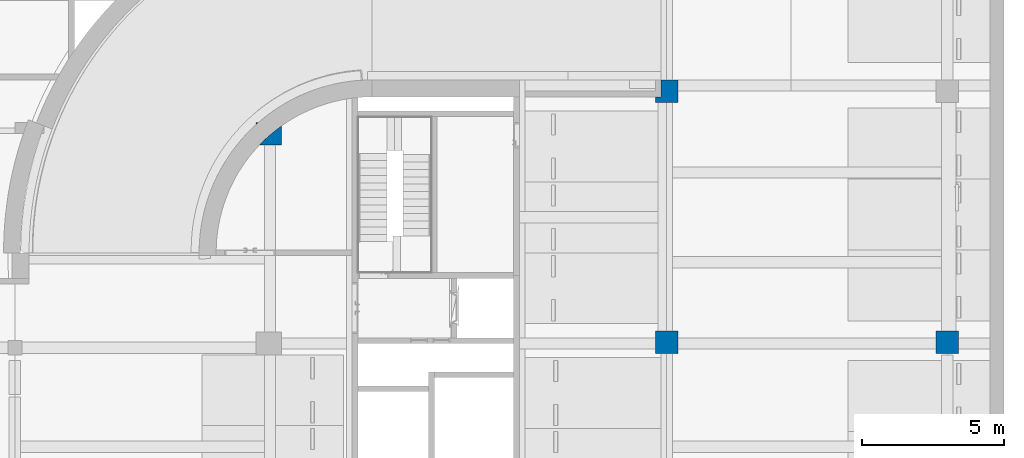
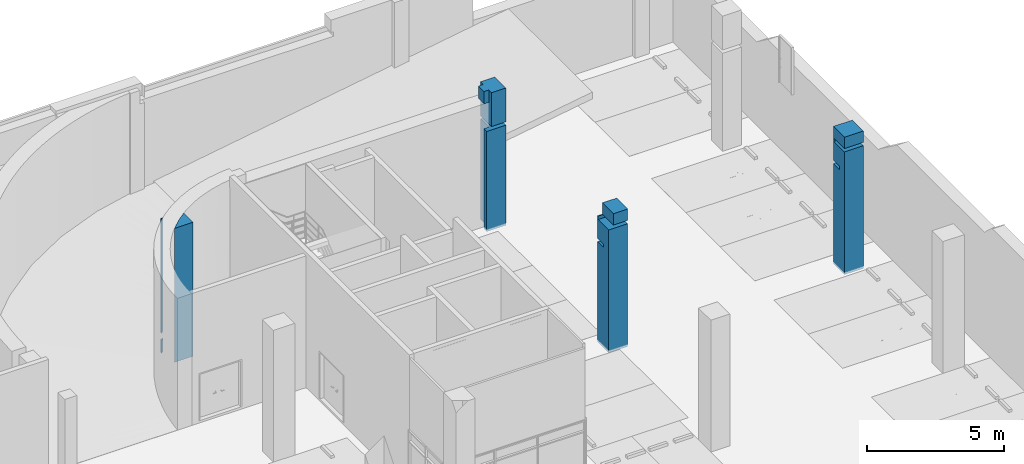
# One storey, part 17 of 29: 4 columns.
"""IFC2X3 building model written with IfcOpenShell, lengths in millimetres."""

from ifc_helpers import new_model, entity, si_unit, converted_unit, derived_unit, direction, frame, origin, place, context, subcontext, project, spatial, faceted_brep, source, transform, mapped, material, material_list, type_object, type_shapes, element, save


model = new_model("IFC2X3")

# Units and contexts
model_context = context("Model", 3, precision=0.01, world=origin(), true_north=direction((6.123031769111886e-17, 1.0)))
body_context = subcontext(model_context, "Body", "Model", "MODEL_VIEW")
ifc_project = project(units=[si_unit("LENGTHUNIT", "METRE", prefix="MILLI"), si_unit("AREAUNIT", "SQUARE_METRE"), si_unit("VOLUMEUNIT", "CUBIC_METRE"), converted_unit("PLANEANGLEUNIT", "DEGREE", entity("IfcRatioMeasure", 0.017453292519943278), si_unit("PLANEANGLEUNIT", "RADIAN"), dimensions=[0, 0, 0, 0, 0, 0, 0]), si_unit("MASSUNIT", "GRAM", prefix="KILO"), derived_unit("MASSDENSITYUNIT", [(si_unit("MASSUNIT", "GRAM", prefix="KILO"), 1), (si_unit("LENGTHUNIT", "METRE"), -3)]), derived_unit("MOMENTOFINERTIAUNIT", [(si_unit("LENGTHUNIT", "METRE"), 4)]), si_unit("TIMEUNIT", "SECOND"), si_unit("FREQUENCYUNIT", "HERTZ"), si_unit("THERMODYNAMICTEMPERATUREUNIT", "DEGREE_CELSIUS"), derived_unit("THERMALTRANSMITTANCEUNIT", [(si_unit("MASSUNIT", "GRAM", prefix="KILO"), 1), (si_unit("THERMODYNAMICTEMPERATUREUNIT", "KELVIN"), -1), (si_unit("TIMEUNIT", "SECOND"), -3)]), derived_unit("VOLUMETRICFLOWRATEUNIT", [(si_unit("LENGTHUNIT", "METRE"), 3), (si_unit("TIMEUNIT", "SECOND"), -1)]), derived_unit("MASSFLOWRATEUNIT", [(si_unit("MASSUNIT", "GRAM", prefix="KILO"), 1), (si_unit("TIMEUNIT", "SECOND"), -1)]), derived_unit("ROTATIONALFREQUENCYUNIT", [(si_unit("TIMEUNIT", "SECOND"), -1)]), si_unit("ELECTRICCURRENTUNIT", "AMPERE"), si_unit("ELECTRICVOLTAGEUNIT", "VOLT"), si_unit("POWERUNIT", "WATT"), si_unit("FORCEUNIT", "NEWTON", prefix="KILO"), si_unit("ILLUMINANCEUNIT", "LUX"), si_unit("LUMINOUSFLUXUNIT", "LUMEN"), si_unit("LUMINOUSINTENSITYUNIT", "CANDELA"), derived_unit("USERDEFINED", [(si_unit("MASSUNIT", "GRAM", prefix="KILO"), -1), (si_unit("LENGTHUNIT", "METRE"), -2), (si_unit("TIMEUNIT", "SECOND"), 3), (si_unit("LUMINOUSFLUXUNIT", "LUMEN"), 1)]), derived_unit("SOUNDPOWERUNIT", [(si_unit("MASSUNIT", "GRAM", prefix="KILO"), 1), (si_unit("LENGTHUNIT", "METRE"), 2), (si_unit("TIMEUNIT", "SECOND"), -3)]), derived_unit("SOUNDPRESSUREUNIT", [(si_unit("MASSUNIT", "GRAM", prefix="KILO"), 1), (si_unit("LENGTHUNIT", "METRE"), -1), (si_unit("TIMEUNIT", "SECOND"), -2)]), derived_unit("LINEARVELOCITYUNIT", [(si_unit("LENGTHUNIT", "METRE"), 1), (si_unit("TIMEUNIT", "SECOND"), -1)]), si_unit("PRESSUREUNIT", "PASCAL"), derived_unit("USERDEFINED", [(si_unit("LENGTHUNIT", "METRE"), -2), (si_unit("MASSUNIT", "GRAM", prefix="KILO"), 1), (si_unit("TIMEUNIT", "SECOND"), -2)]), derived_unit("LINEARFORCEUNIT", [(si_unit("MASSUNIT", "GRAM", prefix="KILO"), 1), (si_unit("LENGTHUNIT", "METRE"), 1), (si_unit("TIMEUNIT", "SECOND"), -2), (si_unit("LENGTHUNIT", "METRE"), -1)]), derived_unit("PLANARFORCEUNIT", [(si_unit("MASSUNIT", "GRAM", prefix="KILO"), 1), (si_unit("LENGTHUNIT", "METRE"), 1), (si_unit("TIMEUNIT", "SECOND"), -2), (si_unit("LENGTHUNIT", "METRE"), -2)])], contexts=[model_context])

# Site, building, storey
site_placement = place(None, frame((-14167.972527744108, -657.2125860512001, 0.0)))
site = spatial("IfcSite", under=ifc_project, at=site_placement, Name="Default", CompositionType="ELEMENT")
building_placement = place(site_placement, origin())
building = spatial("IfcBuilding", under=site, at=building_placement, Name="Sample Building", CompositionType="ELEMENT")
storey_placement = place(building_placement, frame((0.0, 0.0, -6100.0)))
storey = spatial("IfcBuildingStorey", under=building, at=storey_placement, Name="지하1층", CompositionType="ELEMENT", Elevation=-6099.999999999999)

# Columns
ifc_material = material(Name="KBIMS-콘크리트")
column_type_1 = type_object("IfcColumnType", Name="CL111-철근콘크리트구조 기둥 (각형)1:CL111-철근콘크리트구조 기둥 (각형)_800x800_B2-4C1", PredefinedType="COLUMN", material=ifc_material)
shared_shape_1 = source(origin(), body_context, "Body", "Brep", [
    faceted_brep([(800.0, 800.0, 0.0), (800.0, 0.0, 0.0), (0.0, 0.0, 0.0), (0.0, 800.0, 0.0), (800.0, 800.0, 4450.0), (800.0, 362.5000750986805, 4450.0), (800.0, 362.5000750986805, 4600.0), (800.0, 562.4999999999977, 4600.0), (800.0, 762.4999999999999, 4600.0), (800.0, 800.0, 4600.0), (800.0, 800.0, 6100.0), (800.0, 0.0, 6100.0), (800.0, 0.0, 5600.0), (800.0, 762.5000750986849, 5600.0), (800.0, 762.5000750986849, 5450.0), (800.0, 0.0, 5450.0), (199.99132676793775, 0.0, 6100.0), (199.99132676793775, 0.0, 5600.0), (0.0, 0.0, 5450.0), (0.0, 762.5000750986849, 5450.0), (0.0, 762.5000750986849, 5600.0), (0.0, 800.0, 5600.0), (0.0, 800.0, 4600.0), (0.0, 362.5000750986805, 4600.0), (0.0, 362.5000750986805, 4450.0), (0.0, 800.0, 4450.0), (199.99132676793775, 800.0, 5600.0), (199.99132676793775, 800.0, 6100.0), (199.99132676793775, 800.0, 4600.0), (75.28212069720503, 0.0, 5450.0), (475.2821206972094, 0.0, 5450.0), (199.99132676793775, 762.5000750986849, 5600.0)], [[[0, 1, 2, 3]], [[1, 0, 4, 5, 6, 7, 8, 9, 10, 11, 12, 13, 14, 15]], [[12, 11, 16, 17]], [[3, 2, 18, 19, 20, 21, 22, 23, 24, 25]], [[26, 27, 10, 9, 28, 22, 21]], [[11, 10, 27, 16]], [[15, 14, 19, 18, 29, 30]], [[13, 12, 17, 31]], [[2, 1, 15, 30, 29, 18]], [[14, 13, 31, 20, 19]], [[24, 5, 4, 25]], [[6, 23, 22, 28, 9, 8, 7]], [[5, 24, 23, 6]], [[16, 27, 26, 31, 17]], [[31, 26, 21, 20]], [[0, 3, 25, 4]]]),
])
type_shapes(column_type_1, [shared_shape_1])
column_1_placement = place(storey_placement, frame((40767.97247138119, 19594.712307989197, 0.0)))
element("IfcColumn", 1, at=column_1_placement, inside=storey, type_object=column_type_1, material=ifc_material, Name="CL111-철근콘크리트구조 기둥 (각형)1:CL111-철근콘크리트구조 기둥 (각형)_800x800_B2-4C1", ObjectType="CL111-철근콘크리트구조 기둥 (각형)1:CL111-철근콘크리트구조 기둥 (각형)_800x800_B2-4C1", context=body_context, shape_type="MappedRepresentation", body=[
    mapped(shared_shape_1, transform((0.0, 0.0, 0.0), scale=1.0)),
])
column_type_2 = type_object("IfcColumnType", Name="CL111-철근콘크리트구조 기둥 (각형)1:CL111-철근콘크리트구조 기둥 (각형)_800x800_B2-4C1", PredefinedType="COLUMN", material=ifc_material)
shared_shape_2 = source(origin(), body_context, "Body", "Brep", [
    faceted_brep([(800.0, 800.0, 0.0), (800.0, 0.0, 0.0), (0.0, 0.0, 0.0), (0.0, 800.0, 0.0), (800.0, 800.0, 4450.0), (800.0, 362.5174918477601, 4450.0), (800.0, 362.5174918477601, 4600.0), (800.0, 800.0, 4600.0), (800.0, 800.0, 6100.0), (800.0, 0.0, 6100.0), (800.0, 0.0, 5600.0), (800.0, 762.5174918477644, 5600.0), (800.0, 762.5174918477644, 5450.0), (800.0, 0.0, 5450.0), (0.0, 0.0, 6100.0), (0.0, 0.0, 5600.0), (0.0, 0.0, 5450.0), (0.0, 362.51780089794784, 5450.0), (0.0, 476.382299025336, 5450.0), (0.0, 762.5174918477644, 5450.0), (0.0, 762.5174918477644, 5600.0), (0.0, 800.0, 6100.0), (0.0, 800.0, 5600.0), (0.0, 800.0, 4750.0), (0.0, 800.0, 4600.0), (0.0, 362.5174918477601, 4600.0), (0.0, 362.5174918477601, 4450.0), (0.0, 800.0, 4450.0), (199.99909964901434, 0.0, 5450.0), (275.29854995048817, 0.0, 5450.0), (675.2985499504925, 0.0, 5450.0), (799.9999326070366, 762.5174918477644, 5450.0), (799.9999326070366, 762.5174918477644, 5600.0), (799.9911598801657, 362.5174918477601, 4600.0), (799.9911598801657, 362.5174918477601, 4450.0)], [[[0, 1, 2, 3]], [[1, 0, 4, 5, 6, 7, 8, 9, 10, 11, 12, 13]], [[9, 14, 15, 10]], [[3, 2, 16, 17, 18, 19, 20, 15, 14, 21, 22, 23, 24, 25, 26, 27]], [[21, 8, 7, 24, 23, 22]], [[9, 8, 21, 14]], [[16, 28, 29, 30, 13, 31, 19, 18, 17]], [[10, 15, 20, 11]], [[19, 12, 32, 20]], [[2, 1, 13, 30, 29, 28, 16]], [[26, 5, 4, 27]], [[33, 25, 24, 7]], [[34, 26, 25, 6]], [[0, 3, 27, 4]]]),
])
type_shapes(column_type_2, [shared_shape_2])
column_2_placement = place(storey_placement, frame((50667.963865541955, 19594.694891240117, 0.0)))
element("IfcColumn", 2, at=column_2_placement, inside=storey, type_object=column_type_2, material=ifc_material, Name="CL111-철근콘크리트구조 기둥 (각형)1:CL111-철근콘크리트구조 기둥 (각형)_800x800_B2-4C1", ObjectType="CL111-철근콘크리트구조 기둥 (각형)1:CL111-철근콘크리트구조 기둥 (각형)_800x800_B2-4C1", context=body_context, shape_type="MappedRepresentation", body=[
    mapped(shared_shape_2, transform((0.0, 0.0, 0.0), scale=1.0)),
])
ifc_material_list_1 = material_list([ifc_material, ifc_material, ifc_material])
ifc_material_list_2 = material_list([ifc_material, ifc_material, ifc_material])
column_type_3 = type_object("IfcColumnType", Name="CL111-철근콘크리트구조 기둥 (각형)1:CL111-철근콘크리트구조 기둥 (각형)_800x900_B2-1C2", PredefinedType="COLUMN", material=ifc_material_list_2)
shared_shape_3 = source(origin(), body_context, "Body", "Brep", [
    faceted_brep([(901.5875000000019, 1.5874999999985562, 0.0), (125.42607430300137, 1.5874999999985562, 0.0), (307.43946888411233, 183.33417758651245, 0.0), (497.75120242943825, 356.3722505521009, 0.0), (695.9450381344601, 520.3232618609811, 0.0), (901.5875000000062, 674.8286290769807, 0.0), (901.5875000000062, 674.8286290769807, 5950.0), (901.5875000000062, 515.4519981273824, 5950.0), (901.5875000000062, 401.58749999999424, 5950.0), (901.5875000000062, 1.5874999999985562, 5950.0), (901.5875000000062, 674.8286290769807, 5250.0), (576.8782573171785, 1.5874999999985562, 5950.0), (125.42607430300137, 1.5874999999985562, 5950.0), (125.42607430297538, 1.5874999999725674, 3360.482668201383), (307.43946888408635, 183.33417758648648, 5950.0), (497.7512024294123, 356.37225055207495, 5950.0), (595.8895566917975, 439.50652556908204, 2975.0), (695.9450381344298, 520.3232618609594, 5950.0)], [[[0, 1, 2, 3, 4, 5]], [[6, 7, 8, 9, 0, 5, 10]], [[11, 12, 13, 1, 0, 9]], [[14, 15, 16]], [[14, 16, 13]], [[3, 2, 16]], [[13, 16, 2]], [[13, 2, 1]], [[13, 12, 14]], [[17, 6, 10]], [[10, 16, 17]], [[5, 16, 10]], [[16, 4, 3]], [[16, 5, 4]], [[16, 15, 17]], [[11, 9, 8, 7, 6, 17, 15, 14, 12]]]),
    faceted_brep([(1.5875000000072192, 801.5874999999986, 5950.0), (95.3600794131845, 801.5874999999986, 5950.0), (95.3600794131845, 801.5874999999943, 5268.222909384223), (95.3600794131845, 801.5874999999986, 4586.445818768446), (95.3600794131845, 801.5874999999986, 3904.6687281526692), (95.3600794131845, 801.5874999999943, 3222.891637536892), (95.3600794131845, 801.5874999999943, 2744.712541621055), (95.3600794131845, 801.5874999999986, 2266.5334457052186), (95.3600794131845, 801.5874999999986, 1584.756355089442), (95.36007941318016, 801.5874999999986, 902.9792644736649), (48.49685158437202, 801.5874999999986, 897.6222033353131), (1.5875000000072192, 801.5874999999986, 892.3131133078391), (1.5875000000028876, 718.2073581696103, 5950.0), (1.5875000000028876, 759.8769209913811, 888.1620354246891), (1.5875000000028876, 718.2073581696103, 883.9731568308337), (1.5875000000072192, 718.2073581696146, 1565.7502474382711), (1.5875000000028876, 718.2073581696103, 2150.479867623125), (1.5875000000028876, 718.2073581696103, 2783.7332230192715), (1.5875000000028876, 718.2073581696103, 3416.9865784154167), (1.5875000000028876, 718.2073581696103, 4001.7161986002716), (1.5875000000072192, 718.2073581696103, 4586.445818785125), (1.5875000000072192, 718.2073581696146, 5268.2229093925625), (48.25938558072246, 760.1385563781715, 5950.0), (48.25931903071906, 760.1384972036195, 893.4762004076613), (49.2673479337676, 761.0346108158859, 2983.802089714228), (46.70052292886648, 758.7519787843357, 2322.7155159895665), (47.62703749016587, 759.576210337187, 1858.1150573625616), (48.259385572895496, 760.1385563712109, 5462.949091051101), (48.25938557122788, 760.1385563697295, 4781.105223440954), (48.25938558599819, 760.1385563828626, 4294.081008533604), (49.46031034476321, 761.2061042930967, 1375.8857781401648), (51.52870579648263, 763.0434530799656, 3463.088432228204), (51.53025586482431, 763.0448293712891, 3879.1679283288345)], [[[0, 1, 2, 3, 4, 5, 6, 7, 8, 9, 10, 11]], [[12, 0, 11, 13, 14, 15, 16, 17, 18, 19, 20, 21]], [[22, 1, 0, 12]], [[23, 10, 9]], [[13, 10, 23]], [[23, 14, 13]], [[10, 13, 11]], [[6, 24, 25]], [[26, 7, 25]], [[27, 28, 29, 4, 3, 2, 1, 22]], [[30, 15, 14]], [[15, 30, 26]], [[28, 27, 22, 12, 21, 20, 19, 29]], [[18, 24, 31]], [[30, 23, 9]], [[17, 25, 24]], [[26, 16, 15]], [[25, 16, 26]], [[26, 8, 7]], [[8, 26, 30]], [[8, 30, 9]], [[14, 23, 30]], [[25, 17, 16]], [[29, 19, 32]], [[5, 24, 6]], [[25, 7, 6]], [[17, 24, 18]], [[31, 24, 5]], [[31, 5, 4]], [[32, 19, 18]], [[4, 29, 32]], [[32, 31, 4]], [[18, 31, 32]]]),
    faceted_brep([(95.36007941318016, 801.5874999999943, 602.9792644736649), (48.49685158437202, 801.5875000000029, 597.6222033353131), (48.259319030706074, 760.1384972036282, 593.4762004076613), (1.5875000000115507, 759.8769209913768, 588.162035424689), (1.5875000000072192, 718.2073581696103, 583.9731568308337), (1.5875000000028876, 801.5875000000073, 592.3131133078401), (95.3600794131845, 801.5874999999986, 0.0), (48.25938558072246, 760.1385563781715, 0.0), (1.5875000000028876, 718.2073581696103, 0.0), (1.5875000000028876, 801.5874999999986, 0.0)], [[[0, 1, 2]], [[2, 1, 3]], [[3, 4, 2]], [[5, 3, 1]], [[6, 0, 2]], [[7, 6, 2]], [[2, 4, 7]], [[8, 7, 4]], [[7, 8, 9, 6]], [[1, 0, 6, 9, 5]], [[3, 5, 9, 8, 4]]]),
])
type_shapes(column_type_3, [shared_shape_3])
column_3_placement = place(storey_placement, frame((26666.367641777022, 26955.6251170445, 0.0)))
element("IfcColumn", 3, at=column_3_placement, inside=storey, type_object=column_type_3, material=ifc_material_list_1, Name="CL111-철근콘크리트구조 기둥 (각형)1:CL111-철근콘크리트구조 기둥 (각형)_800x900_B2-1C2", ObjectType="CL111-철근콘크리트구조 기둥 (각형)1:CL111-철근콘크리트구조 기둥 (각형)_800x900_B2-1C2", context=body_context, shape_type="MappedRepresentation", body=[
    mapped(shared_shape_3, transform((0.0, 0.0, 0.0), scale=1.0)),
])
ifc_material_list_3 = material_list([ifc_material, ifc_material])
ifc_material_list_4 = material_list([ifc_material, ifc_material])
column_type_4 = type_object("IfcColumnType", Name="CL111-철근콘크리트구조 기둥 (각형)1:CL111-철근콘크리트구조 기둥 (각형)_800x800_B2-4C1", PredefinedType="COLUMN", material=ifc_material_list_4)
shared_shape_4 = source(origin(), body_context, "Body", "Brep", [
    faceted_brep([(800.0, 800.0, 0.0), (800.0, 0.0, 0.0), (0.0, 0.0, 0.0), (0.0, 199.99969094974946, 0.0), (200.00865637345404, 199.99969094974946, 0.0), (200.00865637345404, 800.0, 0.0), (800.0, 0.0, 4450.0), (800.0, 400.0, 4450.0), (800.0, 800.0, 4450.0), (200.00865637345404, 800.0, 4450.0), (200.00865637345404, 199.99969094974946, 4450.0), (0.0, 199.99969094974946, 4450.0), (0.0, 0.0, 4450.0), (800.0, 800.0, 2681.688367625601), (800.0, 800.0, 3289.59679525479), (800.0, 800.0, 3750.0)], [[[0, 1, 2, 3, 4, 5]], [[6, 7, 8, 9, 10, 11, 12]], [[1, 0, 13, 14, 15, 8, 7, 6]], [[2, 1, 6, 12]], [[2, 12, 11, 3]], [[8, 15, 14, 13, 0, 5, 9]], [[4, 10, 9, 5]], [[10, 4, 3, 11]]]),
    faceted_brep([(800.0, 0.0, 6100.0), (800.0, 0.0, 4600.0), (800.0, 599.9996781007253, 4600.0), (800.0, 599.999678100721, 6100.0), (200.00865637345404, 0.0, 6100.0), (200.00865637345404, 0.0, 4600.0), (0.0, 199.99969094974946, 5550.0), (0.0, 199.99969094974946, 6100.0), (0.0, 599.9996909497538, 6100.0), (0.0, 599.9996909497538, 5550.0), (200.00865637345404, 800.0, 4600.0), (200.0086563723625, 800.0, 6100.0), (799.0173493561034, 800.0, 6100.0), (799.0173493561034, 800.0, 4600.0), (799.0173493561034, 599.999678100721, 6100.0), (200.0086563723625, 599.9996909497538, 6100.0), (200.00865637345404, 199.99969094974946, 6100.0), (200.00865637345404, 199.99969094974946, 4600.0), (799.0173493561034, 599.9996781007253, 4600.0), (200.00865637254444, 199.99969094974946, 5550.0), (200.00865637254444, 599.9996909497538, 5550.0)], [[[0, 1, 2, 3]], [[1, 0, 4, 5]], [[6, 7, 8, 9]], [[10, 11, 12, 13]], [[4, 0, 3, 14, 12, 11, 15, 8, 7, 16]], [[1, 5, 17, 10, 13, 18, 2]], [[19, 6, 9, 20]], [[10, 17, 5, 4, 16, 19, 20, 15, 11]], [[19, 16, 7, 6]], [[18, 14, 3, 2]], [[14, 18, 13, 12]], [[15, 20, 9, 8]]]),
])
type_shapes(column_type_4, [shared_shape_4])
column_4_placement = place(storey_placement, frame((40767.95514177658, 28457.212617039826, 0.0)))
element("IfcColumn", 4, at=column_4_placement, inside=storey, type_object=column_type_4, material=ifc_material_list_3, Name="CL111-철근콘크리트구조 기둥 (각형)1:CL111-철근콘크리트구조 기둥 (각형)_800x800_B2-4C1", ObjectType="CL111-철근콘크리트구조 기둥 (각형)1:CL111-철근콘크리트구조 기둥 (각형)_800x800_B2-4C1", context=body_context, shape_type="MappedRepresentation", body=[
    mapped(shared_shape_4, transform((0.0, 0.0, 0.0), scale=1.0)),
])

save(model, "model.ifc")
